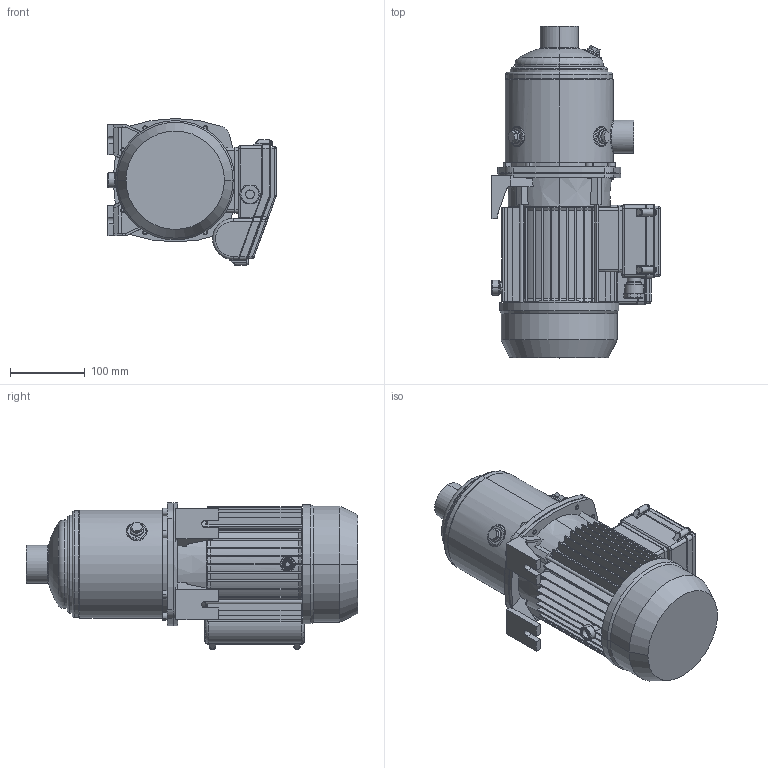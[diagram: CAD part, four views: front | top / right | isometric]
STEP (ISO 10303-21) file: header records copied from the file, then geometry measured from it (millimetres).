
FILE_DESCRIPTION((''),'2;1');
FILE_NAME('MATRIX_10-4T_1_5_M_ASM','2017-04-07T',('rosa'),('"Ebara Pumps Europe +39.444.706811"'),'PRO/ENGINEER BY PARAMETRIC TECHNOLOGY CORPORATION, 2012130','PRO/ENGINEER BY PARAMETRIC TECHNOLOGY CORPORATION, 2012130','');
FILE_SCHEMA(('AUTOMOTIVE_DESIGN { 1 0 10303 214 1 1 1 1 }'));
Length unit declared in the file: millimetre
Products named in the file (6): CORPO_POMPA_MATRIX_10-4; SUPPORTO_MATRIX_MEC_80; MEC_80_MONOFASE; 72229; COPRIMORSETTIERA_MEC80_90_M; MATRIX_10-4T_1_5_M_ASM
Assembly tree (5 placements, depth 2):
  MATRIX_10-4T_1_5_M_ASM
    CORPO_POMPA_MATRIX_10-4
    SUPPORTO_MATRIX_MEC_80
    MEC_80_MONOFASE
    72229
    COPRIMORSETTIERA_MEC80_90_M
Bounding box: 225 x 443.8 x 196.5 mm (x, y, z)
Volume: 5993529.3 mm3; surface area: 593902.4 mm2
Topology: 5 solids, 5 shells, 960 faces, 2294 edges, 1391 vertices
Faces by surface type: plane 427, cylinder 303, cone 108, torus 62, bspline 56, sphere 4
Entity records: 38911 total; most frequent: CARTESIAN_POINT 9123, DIRECTION 4712, ORIENTED_EDGE 4588, EDGE_CURVE 2294, PRESENTATION_STYLE_ASSIGNMENT 2248, STYLED_ITEM 2248, CURVE_STYLE 2244, AXIS2_PLACEMENT_3D 1815
